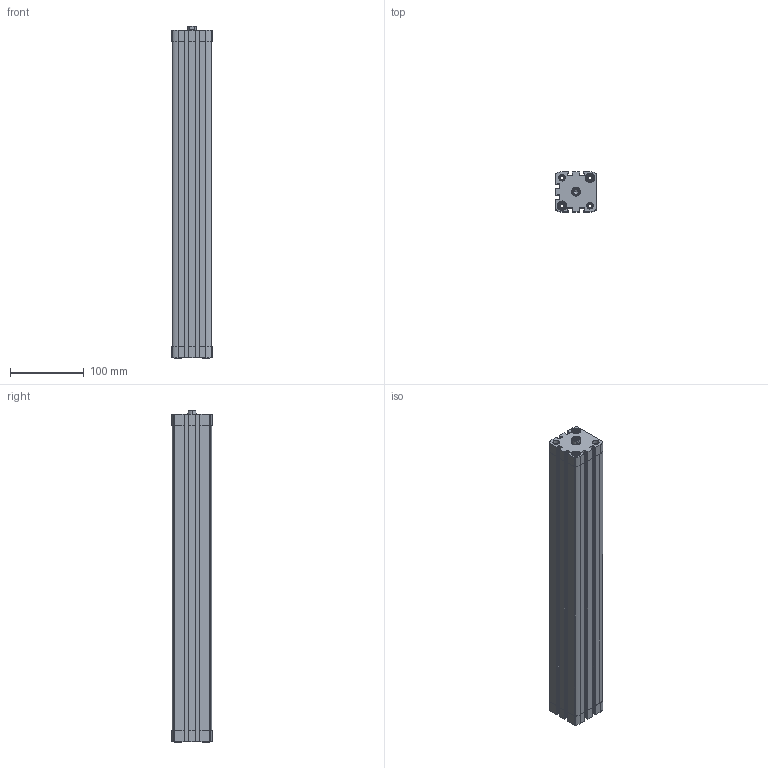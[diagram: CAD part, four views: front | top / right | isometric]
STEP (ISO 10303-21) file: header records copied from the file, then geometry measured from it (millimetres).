
FILE_DESCRIPTION (( 'STEP AP203' ), '1' );
FILE_NAME ('CCN40-400F.STEP', '2017-03-30T11:10:10', ( '' ), ( '' ), 'SwSTEP 2.0', 'SolidWorks 2016', '' );
FILE_SCHEMA (( 'CONFIG_CONTROL_DESIGN' ));
Length unit declared in the file: millimetre
Products named in the file (3): CCN-400---(Z); CCN-400_(KS); CCN40-400F
Assembly tree (2 placements, depth 2):
  CCN40-400F
    CCN-400---(Z)
    CCN-400_(KS)
Bounding box: 54.5 x 54.5 x 451.1 mm (x, y, z)
Volume: 690234.2 mm3; surface area: 241662 mm2
Topology: 2 solids, 2 shells, 479 faces, 1304 edges, 859 vertices
Faces by surface type: plane 267, cylinder 170, cone 42
Entity records: 15649 total; most frequent: CARTESIAN_POINT 2939, DIRECTION 2664, ORIENTED_EDGE 2604, EDGE_CURVE 1302, AXIS2_PLACEMENT_3D 976, VERTEX_POINT 859, LINE 712, VECTOR 712
